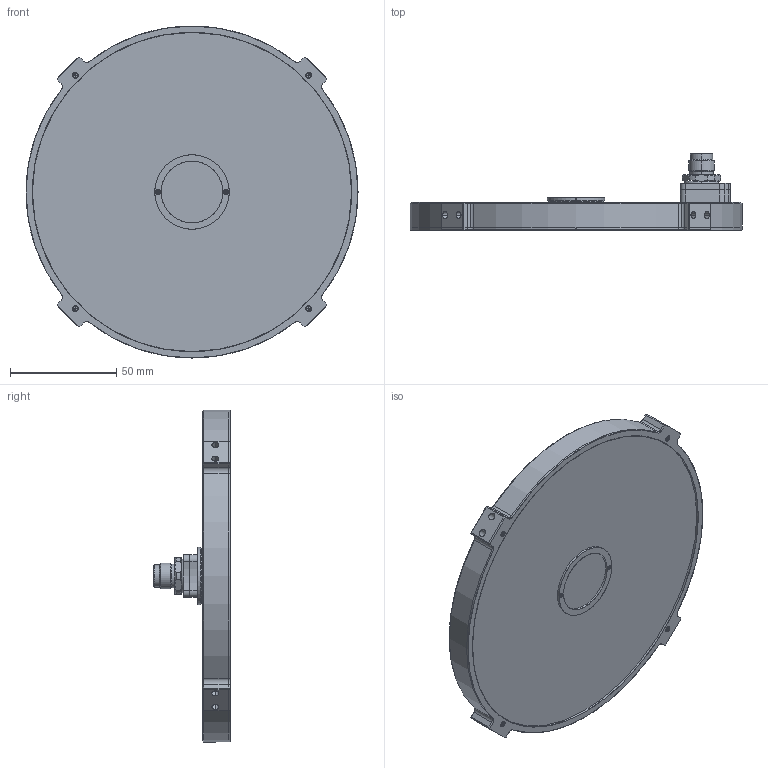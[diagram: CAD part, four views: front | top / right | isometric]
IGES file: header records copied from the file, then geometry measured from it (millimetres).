
Start section: SolidWorks IGES file using analytic representation for surfaces
Global section: file name: C:\Users\user\AppData\Local\Temp\tmpe42ek_xj\VRBP-15035-PL_Drawing_L1215A-A00102.SLDPRT.IGS; native system: SolidWorks 2018; preprocessor: SolidWorks 2018; author: user; date: 240712.150129; units: millimetre
Bounding box: 156 x 36 x 156 mm (x, y, z)
Surface area: 51939.7 mm2 (no closed solid volume)
Topology: 0 solids, 0 shells, 487 faces, 5224 edges, 5214 vertices
Faces by surface type: revolution 245, bspline 242
